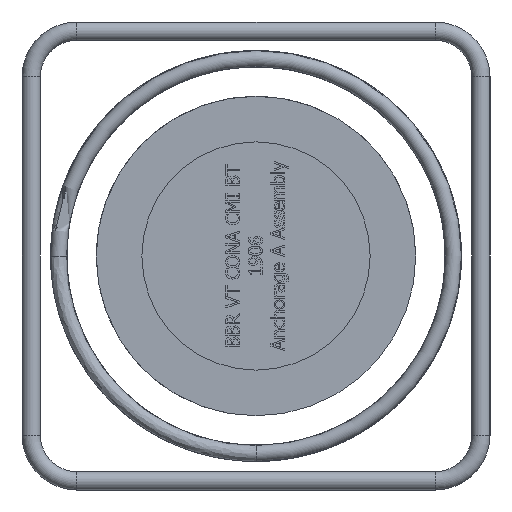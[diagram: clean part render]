
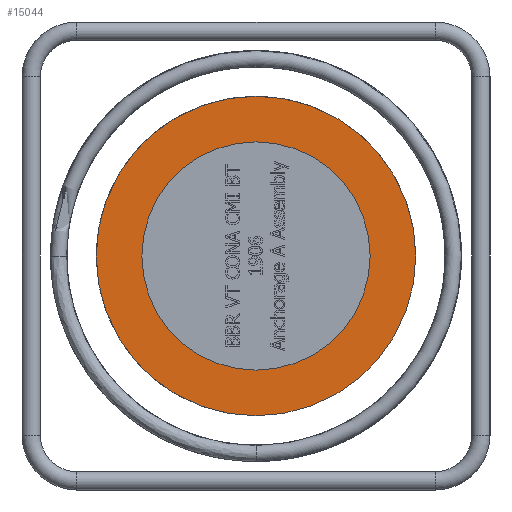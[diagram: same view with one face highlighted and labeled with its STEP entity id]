
A CAD part, left-side view. The second image highlights one B-rep face of the part: STEP entity #15044.
In plain terms, the highlighted planar face has unit normal (-1, 0, 0).
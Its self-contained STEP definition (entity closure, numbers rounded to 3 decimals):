
#100=FACE_BOUND('',#5255,.T.);
#733=PLANE('',#15851);
#4407=FACE_OUTER_BOUND('',#5254,.T.);
#5254=EDGE_LOOP('',(#13226));
#5255=EDGE_LOOP('',(#13227));
#5536=CIRCLE('',#15772,140.);
#5589=CIRCLE('',#15852,100.);
#6935=VERTEX_POINT('',#27932);
#6994=VERTEX_POINT('',#28635);
#8989=EDGE_CURVE('',#6935,#6935,#5536,.T.);
#9085=EDGE_CURVE('',#6994,#6994,#5589,.T.);
#13226=ORIENTED_EDGE('',*,*,#8989,.T.);
#13227=ORIENTED_EDGE('',*,*,#9085,.T.);
#15044=ADVANCED_FACE('',(#4407,#100),#733,.T.);
#15772=AXIS2_PLACEMENT_3D('',#27933,#18363,#18364);
#15851=AXIS2_PLACEMENT_3D('',#28634,#18535,#18536);
#15852=AXIS2_PLACEMENT_3D('',#28636,#18537,#18538);
#18363=DIRECTION('center_axis',(-1.,0.,0.));
#18364=DIRECTION('ref_axis',(0.,0.,1.));
#18535=DIRECTION('center_axis',(-1.,0.,0.));
#18536=DIRECTION('ref_axis',(0.,1.,0.));
#18537=DIRECTION('center_axis',(1.,0.,0.));
#18538=DIRECTION('ref_axis',(0.,1.,0.));
#27932=CARTESIAN_POINT('',(-161.995,0.,-140.));
#27933=CARTESIAN_POINT('Origin',(-161.995,0.,
0.));
#28634=CARTESIAN_POINT('Origin',(-161.995,0.,
111.));
#28635=CARTESIAN_POINT('',(-161.995,-100.,0.));
#28636=CARTESIAN_POINT('Origin',(-161.995,0.,
0.));
